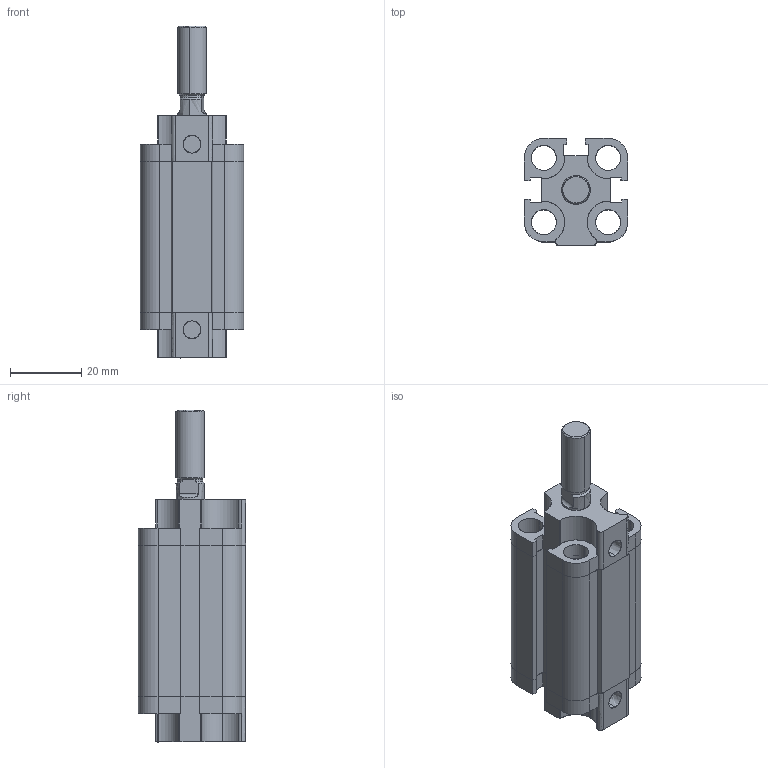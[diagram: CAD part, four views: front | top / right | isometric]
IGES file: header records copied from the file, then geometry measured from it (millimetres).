
Start section: SolidWorks IGES file using analytic representation for surfaces
Global section: file name: D:\ARICA 3D ÇÝZÝMLER\3D IGES\ADVU-S-A\ADVU-S-A 16\ADVU16X30-S-A-CYLINDER.IGS; native system: SolidWorks 2013; preprocessor: SolidWorks 2013; author: user; date: 150413.104717; units: millimetre
Bounding box: 29 x 30 x 93 mm (x, y, z)
Surface area: 23805.2 mm2 (no closed solid volume)
Topology: 0 solids, 0 shells, 322 faces, 4746 edges, 4746 vertices
Faces by surface type: revolution 179, bspline 143
